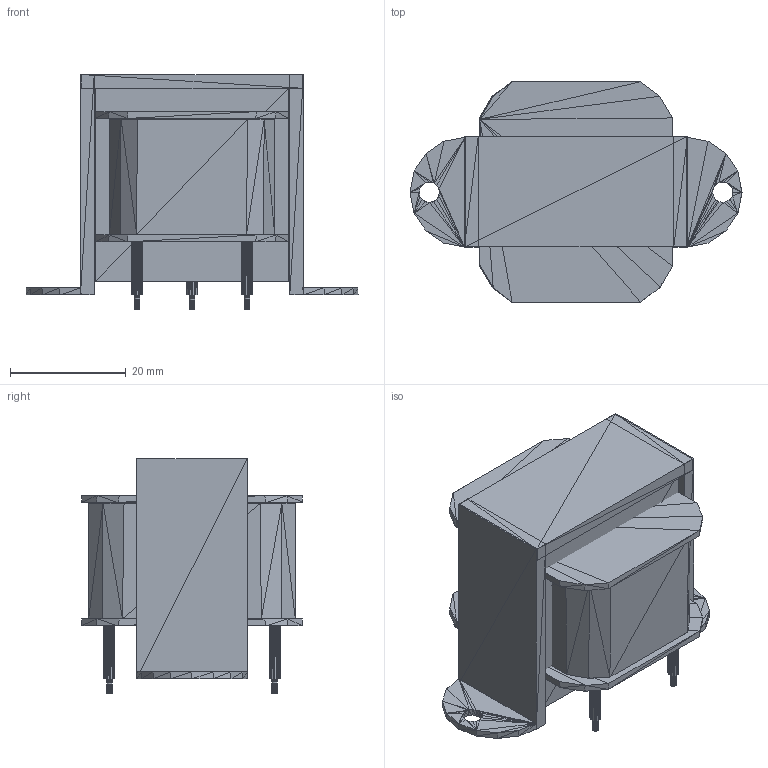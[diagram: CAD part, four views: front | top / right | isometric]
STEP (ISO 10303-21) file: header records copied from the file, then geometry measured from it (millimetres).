
FILE_DESCRIPTION(('HOOPS Exchange Step'),'2;1');
FILE_NAME('***.stp');
FILE_SCHEMA( ('AP242_MANAGED_MODEL_BASED_3D_ENGINEERING_MIM_LF {1 0 10303 442 1 1 4 }') );
Length unit declared in the file: inch
Products named in the file (21): XFRMF116X_2; XFRMF116X_3; XFRMF116X_4; XFRMF116X_5; XFRMF116X_6; XFRMF116X_7; XFRMF116X_8; XFRMF116X_9; XFRMF116X_10; XFRMF116X_11; XFRMF116X_12; XFRMF116X_13; XFRMF116X_14; XFRMF116X_15; XFRMF116X_16; XFRMF116X_17; XFRMF116X_18; XFRMF116X_19; XFRMF116X_20; XFRMF116X_21; XFRMF116X
Assembly tree (20 placements, depth 2):
  XFRMF116X
    XFRMF116X_2
    XFRMF116X_3
    XFRMF116X_4
    XFRMF116X_5
    XFRMF116X_6
    XFRMF116X_7
    XFRMF116X_8
    XFRMF116X_9
    XFRMF116X_10
    XFRMF116X_11
    XFRMF116X_12
    XFRMF116X_13
    XFRMF116X_14
    XFRMF116X_15
    XFRMF116X_16
    XFRMF116X_17
    XFRMF116X_18
    XFRMF116X_19
    XFRMF116X_20
    XFRMF116X_21
Bounding box: 57.42 x 38.1 x 40.65 mm (x, y, z)
Volume: 46596.8 mm3; surface area: 20222.9 mm2
Topology: 20 solids, 20 shells, 1332 faces, 1998 edges, 702 vertices
Faces by surface type: plane 1332
Entity records: 26970 total; most frequent: DIRECTION 4746, CARTESIAN_POINT 4074, ORIENTED_EDGE 3996, VECTOR 1998, LINE 1998, EDGE_CURVE 1998, AXIS2_PLACEMENT_3D 1374, PLANE 1332
